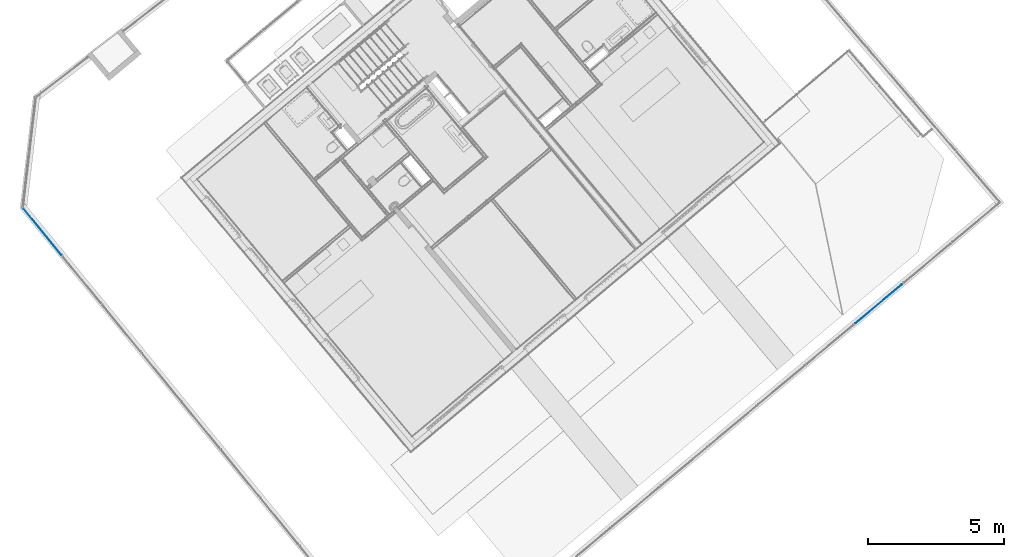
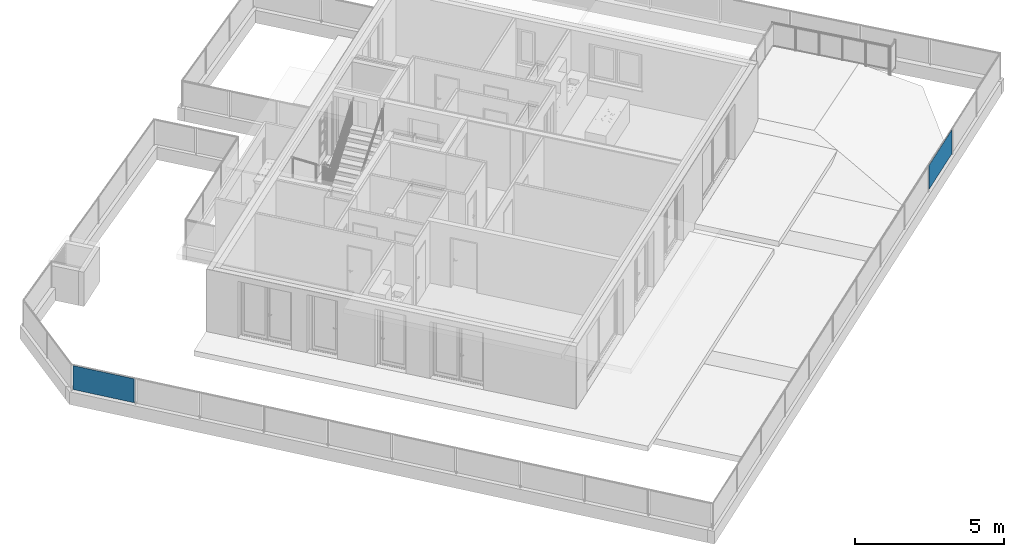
# One storey, part 26 of 67: 2 building element parts, 1 element without a shape of its own.
"""IFC4 building model written with IfcOpenShell, lengths in metres."""

from ifc_helpers import new_model, entity, si_unit, converted_unit, derived_unit, direction, frame, origin_with_axes, place, context, subcontext, project, spatial, polygons, material, type_object, element, aggregate, save


model = new_model("IFC4")

# Units and contexts
model_context = context("Model", 3, precision=1e-05, world=origin_with_axes(), true_north=direction((0.0, 1.0)))
body_context = subcontext(model_context, "Body", "Model", "MODEL_VIEW")
ifc_project = project(units=[si_unit("LENGTHUNIT", "METRE"), si_unit("AREAUNIT", "SQUARE_METRE"), si_unit("VOLUMEUNIT", "CUBIC_METRE"), converted_unit("PLANEANGLEUNIT", "DEGREE", entity("IfcPlaneAngleMeasure", 0.0174532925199), si_unit("PLANEANGLEUNIT", "RADIAN"), dimensions=[0, 0, 0, 0, 0, 0, 0]), converted_unit("TIMEUNIT", "Year", entity("IfcTimeMeasure", 31556926.0), si_unit("TIMEUNIT", "SECOND"), dimensions=[0, 0, 1, 0, 0, 0, 0]), si_unit("MASSUNIT", "GRAM", prefix="KILO"), si_unit("THERMODYNAMICTEMPERATUREUNIT", "DEGREE_CELSIUS"), si_unit("LUMINOUSINTENSITYUNIT", "LUMEN"), si_unit("ENERGYUNIT", "JOULE", prefix="MEGA"), derived_unit("THERMALCONDUCTANCEUNIT", [(si_unit("POWERUNIT", "WATT"), 1), (si_unit("LENGTHUNIT", "METRE"), -1), (si_unit("THERMODYNAMICTEMPERATUREUNIT", "KELVIN"), -1)]), derived_unit("SPECIFICHEATCAPACITYUNIT", [(si_unit("ENERGYUNIT", "JOULE"), 1), (si_unit("MASSUNIT", "GRAM", prefix="KILO"), -1), (si_unit("THERMODYNAMICTEMPERATUREUNIT", "KELVIN"), -1)]), derived_unit("MASSDENSITYUNIT", [(si_unit("MASSUNIT", "GRAM", prefix="KILO"), 1), (si_unit("VOLUMEUNIT", "CUBIC_METRE"), -1)])], contexts=[model_context])

# Site, building, storey
site_placement = place(None, frame((-0.00153261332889, -0.00661245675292, 0.0), z_axis=(0.0, 0.0, 1.0), x_axis=(1.0, 0.0, 0.0)))
site = spatial("IfcSite", under=ifc_project, at=site_placement, Name="Site", CompositionType="ELEMENT")
building_placement = place(site_placement, origin_with_axes())
building = spatial("IfcBuilding", under=site, at=building_placement, Name="Building", CompositionType="ELEMENT")
storey_placement = place(building_placement, frame((0.0, 0.0, -0.22), z_axis=(0.0, 0.0, 1.0), x_axis=(1.0, 0.0, 0.0)))
storey = spatial("IfcBuildingStorey", under=building, at=storey_placement, Name="EG", CompositionType="ELEMENT", Elevation=-0.22)

# Railing, building element parts
railing_type = type_object("IfcRailingType", Name="Geländerart", PredefinedType="NOTDEFINED")
railing_placement = place(storey_placement, frame((-12.1608341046, 23.557810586, 0.523948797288), z_axis=(0.0, 0.0, 1.0), x_axis=(1.0, 0.0, 0.0)))
railing = element("IfcRailing", 1, at=railing_placement, inside=storey, type_object=railing_type, Name="Geländer - 001", PredefinedType="NOTDEFINED")
ifc_material = material(Name="Zaun")
building_element_part_1_placement = place(railing_placement, origin_with_axes())
building_element_part_1 = element("IfcBuildingElementPart", 2, at=building_element_part_1_placement, material=ifc_material, Name="Zaun", PredefinedType="NOTDEFINED", context=body_context, shape_type="Tessellation", body=[
    polygons([(-0.936566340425, -7.37821512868, 0.05), (-2.32748216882, -5.67931828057, 0.05), (-2.32748216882, -5.67931828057, 1.03), (-0.936566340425, -7.37821512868, 1.03), (-2.34295725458, -5.69198799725, 0.05), (-0.952041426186, -7.39088484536, 0.05), (-2.34295725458, -5.69198799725, 1.03), (-0.952041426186, -7.39088484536, 1.03)], [[[1, 2, 3, 4]], [[5, 2, 1, 6]], [[7, 3, 2, 5]], [[4, 3, 7, 8]], [[1, 4, 8, 6]], [[7, 5, 6, 8]]], closed=True),
])
building_element_part_2_placement = place(railing_placement, origin_with_axes())
building_element_part_2 = element("IfcBuildingElementPart", 3, at=building_element_part_2_placement, material=ifc_material, Name="Zaun", PredefinedType="NOTDEFINED", context=body_context, shape_type="Tessellation", body=[
    polygons([(30.0400886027, -8.46674441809, 0.05), (28.3259082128, -9.89935056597, 0.05), (28.3259082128, -9.89935056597, 1.03), (30.0400886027, -8.46674441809, 1.03), (28.3387336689, -9.91469682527, 0.05), (30.0529140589, -8.48209067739, 0.05), (28.3387336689, -9.91469682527, 1.03), (30.0529140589, -8.48209067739, 1.03)], [[[1, 2, 3, 4]], [[5, 2, 1, 6]], [[7, 3, 2, 5]], [[4, 3, 7, 8]], [[1, 4, 8, 6]], [[7, 5, 6, 8]]], closed=True),
])
aggregate(railing, [building_element_part_1, building_element_part_2])

save(model, "model.ifc")
